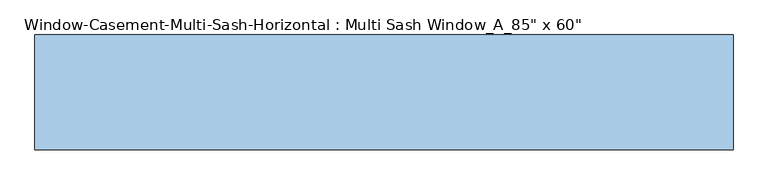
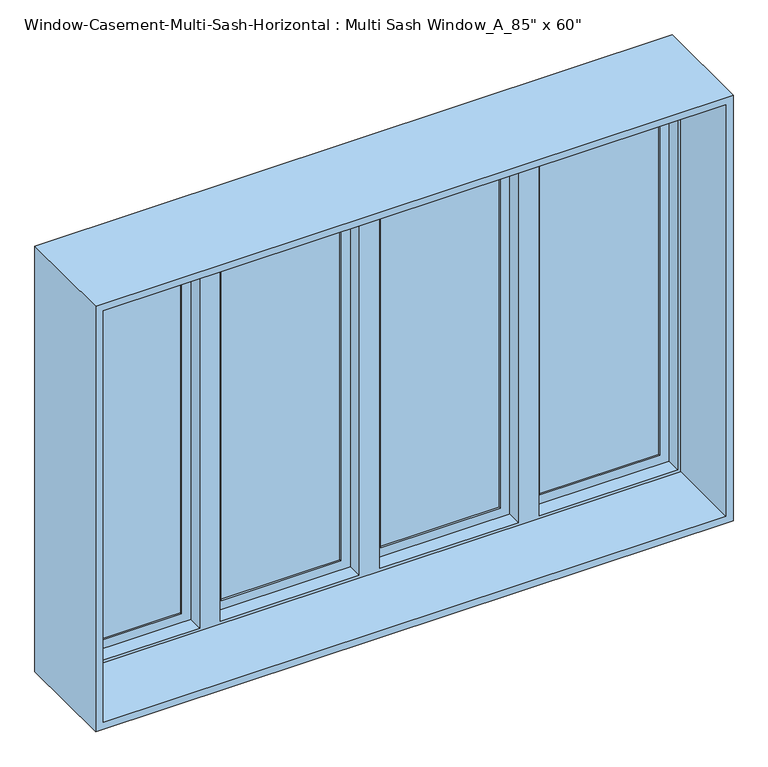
"""IFC4 building model written with IfcOpenShell, lengths in millimetres: window geometry."""

from ifc_helpers import new_model, si_unit, frame, origin, place, context, project, spatial, polyline, outline, extrude, faceted_brep, source, transform, mapped, element, save


def window_c7d59df6(model_context):
    return source(origin(), model_context, "Body", "SolidModel", [
        extrude(outline(polyline([(2413.0, -514.35), (939.8, -514.35), (939.8, -25.4), (2413.0, -25.4), (2413.0, -514.35)]), holes=[polyline([(2371.1296875, -67.2703125), (981.6703125, -67.2703125), (981.6703125, -472.4796875), (2371.1296875, -472.4796875), (2371.1296875, -67.2703125)])]), frame((0.0, 136.525, 0.0), z_axis=(0.0, 1.0, 0.0), x_axis=(0.0, 0.0, 1.0)), (0.0, 0.0, 1.0), 31.75),
        extrude(outline(polyline([(2413.0, 25.4), (939.8, 25.4), (939.8, 514.35), (2413.0, 514.35), (2413.0, 25.4)]), holes=[polyline([(2371.1296875, 472.4796875), (981.6703125, 472.4796875), (981.6703125, 67.2703125), (2371.1296875, 67.2703125), (2371.1296875, 472.4796875)])]), frame((0.0, 136.525, 0.0), z_axis=(0.0, 1.0, 0.0), x_axis=(0.0, 0.0, 1.0)), (0.0, 0.0, 1.0), 31.75),
        faceted_brep([(-565.15, 136.525, 2413.0), (-1054.1, 136.525, 2413.0), (-1054.1, 177.8, 2413.0), (1054.1, 177.8, 2413.0), (1054.1, 136.525, 2413.0), (565.15, 136.525, 2413.0), (565.15, 174.625, 2413.0), (514.35, 174.625, 2413.0), (514.35, 136.525, 2413.0), (25.4, 136.525, 2413.0), (25.4, 174.625, 2413.0), (-25.4, 174.625, 2413.0), (-25.4, 136.525, 2413.0), (-514.35, 136.525, 2413.0), (-514.35, 174.625, 2413.0), (-565.15, 174.625, 2413.0), (-1043.9796875, 85.725, 2402.8796875), (-1043.9796875, 136.525, 2402.8796875), (-575.2703125, 136.525, 2402.8796875), (-575.2703125, 85.725, 2402.8796875), (1043.9796875, 136.525, 2402.8796875), (1043.9796875, 85.725, 2402.8796875), (575.2703125, 85.725, 2402.8796875), (575.2703125, 136.525, 2402.8796875), (-504.2296875, 136.525, 2402.8796875), (-35.5203125, 136.525, 2402.8796875), (-35.5203125, 85.725, 2402.8796875), (-504.2296875, 85.725, 2402.8796875), (35.5203125, 136.525, 2402.8796875), (504.2296875, 136.525, 2402.8796875), (504.2296875, 85.725, 2402.8796875), (35.5203125, 85.725, 2402.8796875), (-1054.1, -177.8, 2413.0), (-1054.1, 85.725, 2413.0), (1054.1, 85.725, 2413.0), (1054.1, -177.8, 2413.0), (-1079.5, 177.8, 2438.4), (-1079.5, -177.8, 2438.4), (1079.5, -177.8, 2438.4), (1079.5, 177.8, 2438.4), (1054.1, 177.8, 939.8), (1054.1, 136.525, 939.8), (1043.9796875, 136.525, 949.9203125), (1043.9796875, 85.725, 949.9203125), (1054.1, 85.725, 939.8), (1054.1, -177.8, 939.8), (1079.5, -177.8, 914.4), (1079.5, 177.8, 914.4), (565.15, 136.525, 939.8), (-1054.1, 177.8, 939.8), (-1054.1, 136.525, 939.8), (-565.15, 136.525, 939.8), (-565.15, 174.625, 939.8), (-514.35, 174.625, 939.8), (-514.35, 136.525, 939.8), (-25.4, 136.525, 939.8), (-25.4, 174.625, 939.8), (25.4, 174.625, 939.8), (25.4, 136.525, 939.8), (514.35, 136.525, 939.8), (514.35, 174.625, 939.8), (565.15, 174.625, 939.8), (575.2703125, 136.525, 949.9203125), (575.2703125, 85.725, 949.9203125), (-1043.9796875, 136.525, 949.9203125), (-1043.9796875, 85.725, 949.9203125), (-575.2703125, 85.725, 949.9203125), (-575.2703125, 136.525, 949.9203125), (-35.5203125, 136.525, 949.9203125), (-504.2296875, 136.525, 949.9203125), (-504.2296875, 85.725, 949.9203125), (-35.5203125, 85.725, 949.9203125), (504.2296875, 136.525, 949.9203125), (35.5203125, 136.525, 949.9203125), (35.5203125, 85.725, 949.9203125), (504.2296875, 85.725, 949.9203125), (-1054.1, 85.725, 939.8), (-1054.1, -177.8, 939.8), (-1079.5, -177.8, 914.4), (-1079.5, 177.8, 914.4)], [[[0, 1, 2, 3, 4, 5, 6, 7, 8, 9, 10, 11, 12, 13, 14, 15]], [[16, 17, 18, 19]], [[20, 21, 22, 23]], [[24, 25, 26, 27]], [[28, 29, 30, 31]], [[32, 33, 34, 35]], [[36, 37, 38, 39]], [[4, 3, 40, 41]], [[21, 20, 42, 43]], [[35, 34, 44, 45]], [[39, 38, 46, 47]], [[48, 41, 40, 49, 50, 51, 52, 53, 54, 55, 56, 57, 58, 59, 60, 61]], [[43, 42, 62, 63]], [[64, 65, 66, 67]], [[68, 69, 70, 71]], [[72, 73, 74, 75]], [[45, 44, 76, 77]], [[47, 46, 78, 79]], [[2, 1, 50, 49]], [[4, 41, 48, 5], [20, 23, 62, 42]], [[50, 1, 0, 51], [64, 67, 18, 17]], [[12, 55, 54, 13], [69, 68, 25, 24]], [[8, 59, 58, 9], [73, 72, 29, 28]], [[17, 16, 65, 64]], [[44, 34, 33, 76], [16, 19, 66, 65], [27, 26, 71, 70], [31, 30, 75, 74], [21, 43, 63, 22]], [[33, 32, 77, 76]], [[38, 37, 78, 46], [32, 35, 45, 77]], [[37, 36, 79, 78]], [[36, 39, 47, 79], [3, 2, 49, 40]], [[18, 67, 66, 19]], [[69, 24, 27, 70]], [[53, 14, 13, 54]], [[14, 53, 52, 15]], [[15, 52, 51, 0]], [[25, 68, 71, 26]], [[73, 28, 31, 74]], [[57, 10, 9, 58]], [[10, 57, 56, 11]], [[11, 56, 55, 12]], [[6, 61, 60, 7]], [[7, 60, 59, 8]], [[29, 72, 75, 30]], [[62, 23, 22, 63]], [[61, 6, 5, 48]]]),
        extrude(outline(polyline([(-67.2703125, 161.925), (-67.2703125, 155.575), (-472.4796875, 155.575), (-472.4796875, 161.925), (-67.2703125, 161.925)])), frame((0.0, 0.0, 981.6703125), z_axis=(0.0, 0.0, 1.0), x_axis=(1.0, 0.0, 0.0)), (0.0, 0.0, 1.0), 1389.459375),
        extrude(outline(polyline([(-67.2703125, 149.225), (-67.2703125, 142.875), (-472.4796875, 142.875), (-472.4796875, 149.225), (-67.2703125, 149.225)])), frame((0.0, 0.0, 981.6703125), z_axis=(0.0, 0.0, 1.0), x_axis=(1.0, 0.0, 0.0)), (0.0, 0.0, 1.0), 1389.459375),
        extrude(outline(polyline([(472.4796875, 161.925), (472.4796875, 155.575), (67.2703125, 155.575), (67.2703125, 161.925), (472.4796875, 161.925)])), frame((0.0, 0.0, 981.6703125), z_axis=(0.0, 0.0, 1.0), x_axis=(1.0, 0.0, 0.0)), (0.0, 0.0, 1.0), 1389.459375),
        extrude(outline(polyline([(472.4796875, 149.225), (472.4796875, 142.875), (67.2703125, 142.875), (67.2703125, 149.225), (472.4796875, 149.225)])), frame((0.0, 0.0, 981.6703125), z_axis=(0.0, 0.0, 1.0), x_axis=(1.0, 0.0, 0.0)), (0.0, 0.0, 1.0), 1389.459375),
        extrude(outline(polyline([(-607.0203125, 161.925), (-607.0203125, 155.575), (-1012.2296875, 155.575), (-1012.2296875, 161.925), (-607.0203125, 161.925)])), frame((0.0, 0.0, 981.6703125), z_axis=(0.0, 0.0, 1.0), x_axis=(1.0, 0.0, 0.0)), (0.0, 0.0, 1.0), 1389.459375),
        extrude(outline(polyline([(-607.0203125, 149.225), (-607.0203125, 142.875), (-1012.2296875, 142.875), (-1012.2296875, 149.225), (-607.0203125, 149.225)])), frame((0.0, 0.0, 981.6703125), z_axis=(0.0, 0.0, 1.0), x_axis=(1.0, 0.0, 0.0)), (0.0, 0.0, 1.0), 1389.459375),
        extrude(outline(polyline([(1012.2296875, 161.925), (1012.2296875, 155.575), (607.0203125, 155.575), (607.0203125, 161.925), (1012.2296875, 161.925)])), frame((0.0, 0.0, 981.6703125), z_axis=(0.0, 0.0, 1.0), x_axis=(1.0, 0.0, 0.0)), (0.0, 0.0, 1.0), 1389.459375),
        extrude(outline(polyline([(1012.2296875, 149.225), (1012.2296875, 142.875), (607.0203125, 142.875), (607.0203125, 149.225), (1012.2296875, 149.225)])), frame((0.0, 0.0, 981.6703125), z_axis=(0.0, 0.0, 1.0), x_axis=(1.0, 0.0, 0.0)), (0.0, 0.0, 1.0), 1389.459375),
        extrude(outline(polyline([(2413.0, -1054.1), (939.8, -1054.1), (939.8, -565.15), (2413.0, -565.15), (2413.0, -1054.1)]), holes=[polyline([(2371.1296875, -607.0203125), (981.6703125, -607.0203125), (981.6703125, -1012.2296875), (2371.1296875, -1012.2296875), (2371.1296875, -607.0203125)])]), frame((0.0, 136.525, 0.0), z_axis=(0.0, 1.0, 0.0), x_axis=(0.0, 0.0, 1.0)), (0.0, 0.0, 1.0), 31.75),
        extrude(outline(polyline([(2413.0, 565.15), (939.8, 565.15), (939.8, 1054.1), (2413.0, 1054.1), (2413.0, 565.15)]), holes=[polyline([(2371.1296875, 1012.2296875), (981.6703125, 1012.2296875), (981.6703125, 607.0203125), (2371.1296875, 607.0203125), (2371.1296875, 1012.2296875)])]), frame((0.0, 136.525, 0.0), z_axis=(0.0, 1.0, 0.0), x_axis=(0.0, 0.0, 1.0)), (0.0, 0.0, 1.0), 31.75),
    ])


if __name__ == "__main__":
    model = new_model("IFC4")
    model_context = context("Model", 3, world=origin())
    ifc_project = project(units=[si_unit("LENGTHUNIT", "METRE", prefix="MILLI")], contexts=[model_context])
    site = spatial("IfcSite", under=ifc_project)
    building = spatial("IfcBuilding", under=site)
    placement = place(None, origin())
    window_shape = window_c7d59df6(model_context)
    element("IfcWindow", 1, ObjectType="Window-Casement-Multi-Sash-Horizontal : Multi Sash Window_A_85\" x 60\"", at=placement, inside=building, context=model_context, shape_type="MappedRepresentation", body=[
        mapped(window_shape, transform((0.0, 0.0, 0.0), x_axis=(1.0, 0.0, 0.0), y_axis=(0.0, 1.0, 0.0), z_axis=(0.0, 0.0, 1.0))),
    ])
    save(model, "model.ifc")
